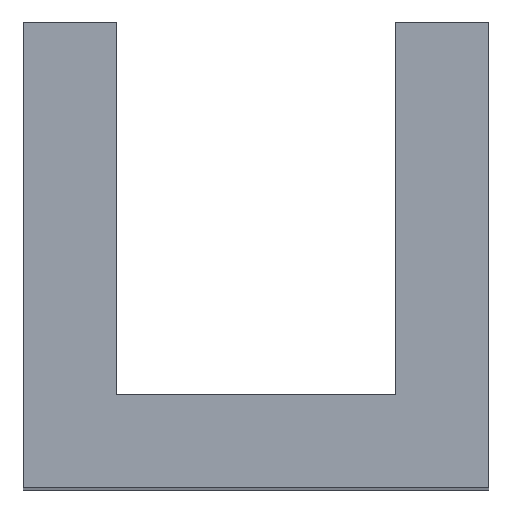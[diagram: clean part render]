
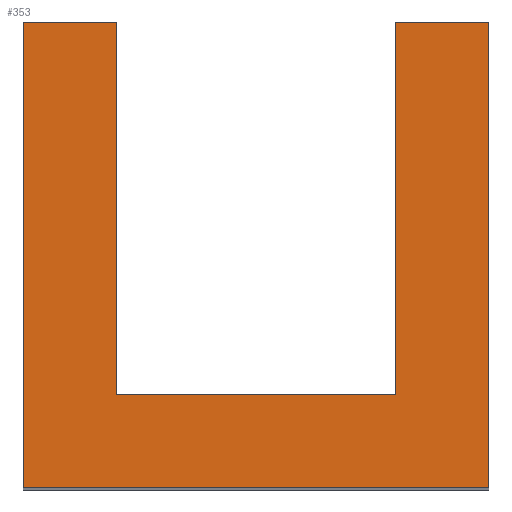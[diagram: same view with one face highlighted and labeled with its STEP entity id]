
A CAD part, top view. The second image highlights one B-rep face of the part: STEP entity #353.
In plain terms, the highlighted planar face has unit normal (0, 0, 1).
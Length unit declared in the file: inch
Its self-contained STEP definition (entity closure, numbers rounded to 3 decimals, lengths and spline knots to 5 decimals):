
#79=CARTESIAN_POINT('',(0.11811,0.3937,1.0));
#80=VERTEX_POINT('',#79);
#81=CARTESIAN_POINT('',(0.19685,0.3937,1.0));
#82=VERTEX_POINT('',#81);
#83=CARTESIAN_POINT('',(0.11811,0.3937,1.0));
#84=DIRECTION('',(1.0,0.0,0.0));
#85=VECTOR('',#84,0.07874);
#86=LINE('',#83,#85);
#87=EDGE_CURVE('',#80,#82,#86,.T.);
#119=CARTESIAN_POINT('',(0.19685,0.,1.0));
#120=VERTEX_POINT('',#119);
#121=CARTESIAN_POINT('',(0.19685,0.3937,1.0));
#122=DIRECTION('',(0.0,-1.0,0.0));
#123=VECTOR('',#122,0.3937);
#124=LINE('',#121,#123);
#125=EDGE_CURVE('',#82,#120,#124,.T.);
#150=CARTESIAN_POINT('',(-0.19685,0.,1.0));
#151=VERTEX_POINT('',#150);
#152=CARTESIAN_POINT('',(0.19685,0.,1.0));
#153=DIRECTION('',(-1.0,0.0,0.0));
#154=VECTOR('',#153,0.3937);
#155=LINE('',#152,#154);
#156=EDGE_CURVE('',#120,#151,#155,.T.);
#181=CARTESIAN_POINT('',(-0.19685,0.3937,1.0));
#182=VERTEX_POINT('',#181);
#183=CARTESIAN_POINT('',(-0.19685,0.0,1.0));
#184=DIRECTION('',(0.0,1.0,0.0));
#185=VECTOR('',#184,0.3937);
#186=LINE('',#183,#185);
#187=EDGE_CURVE('',#151,#182,#186,.T.);
#212=CARTESIAN_POINT('',(-0.11811,0.3937,1.0));
#213=VERTEX_POINT('',#212);
#214=CARTESIAN_POINT('',(-0.19685,0.3937,1.0));
#215=DIRECTION('',(1.0,0.0,0.0));
#216=VECTOR('',#215,0.07874);
#217=LINE('',#214,#216);
#218=EDGE_CURVE('',#182,#213,#217,.T.);
#243=CARTESIAN_POINT('',(-0.11811,0.07874,1.0));
#244=VERTEX_POINT('',#243);
#245=CARTESIAN_POINT('',(-0.11811,0.3937,1.0));
#246=DIRECTION('',(0.0,-1.0,0.0));
#247=VECTOR('',#246,0.31496);
#248=LINE('',#245,#247);
#249=EDGE_CURVE('',#213,#244,#248,.T.);
#274=CARTESIAN_POINT('',(0.11811,0.07874,1.0));
#275=VERTEX_POINT('',#274);
#276=CARTESIAN_POINT('',(-0.11811,0.07874,1.0));
#277=DIRECTION('',(1.0,0.0,0.0));
#278=VECTOR('',#277,0.23622);
#279=LINE('',#276,#278);
#280=EDGE_CURVE('',#244,#275,#279,.T.);
#305=CARTESIAN_POINT('',(0.11811,0.07874,1.0));
#306=DIRECTION('',(0.0,1.0,0.0));
#307=VECTOR('',#306,0.31496);
#308=LINE('',#305,#307);
#309=EDGE_CURVE('',#275,#80,#308,.T.);
#338=CARTESIAN_POINT('',(0.,0.17435,1.0));
#339=DIRECTION('',(0.0,0.0,1.0));
#340=DIRECTION('',(1.0,0.0,0.0));
#341=AXIS2_PLACEMENT_3D('',#338,#339,#340);
#342=PLANE('',#341);
#343=ORIENTED_EDGE('',*,*,#87,.F.);
#344=ORIENTED_EDGE('',*,*,#309,.F.);
#345=ORIENTED_EDGE('',*,*,#280,.F.);
#346=ORIENTED_EDGE('',*,*,#249,.F.);
#347=ORIENTED_EDGE('',*,*,#218,.F.);
#348=ORIENTED_EDGE('',*,*,#187,.F.);
#349=ORIENTED_EDGE('',*,*,#156,.F.);
#350=ORIENTED_EDGE('',*,*,#125,.F.);
#351=EDGE_LOOP('',(#343,#344,#345,#346,#347,#348,#349,#350));
#352=FACE_OUTER_BOUND('',#351,.T.);
#353=ADVANCED_FACE('',(#352),#342,.T.);
